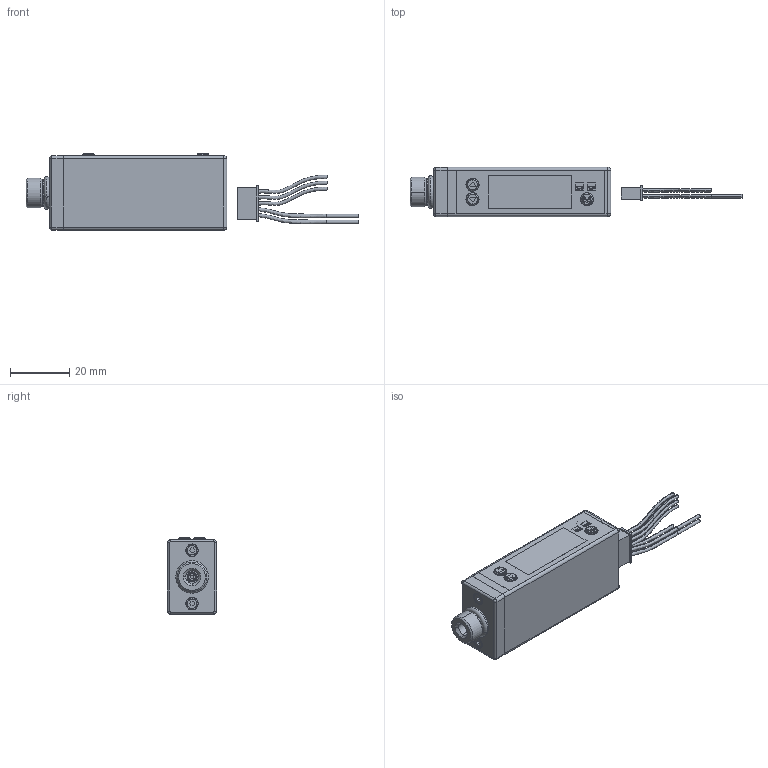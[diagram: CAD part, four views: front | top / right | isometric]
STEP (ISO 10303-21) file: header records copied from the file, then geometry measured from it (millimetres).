
FILE_DESCRIPTION (( 'STEP AP214' ), '1' );
FILE_NAME ('2021115-KP30²Õ¦X.STEP', '2024-09-02T06:53:12', ( '' ), ( '' ), 'SwSTEP 2.0', 'SolidWorks 2022', '' );
FILE_SCHEMA (( 'AUTOMOTIVE_DESIGN' ));
Length unit declared in the file: millimetre
Products named in the file (30): 20211108-Oring; 30103X20B1.step; CONN.2; 30100XX03T.step; 30103X24B1.step; 20211108-D-P-0281B; 20211108-KP30-PC-0276D; 30103XX01T.step; P-0292A; 30103XX02T.step; P-0297C; 20211108改-PC-0277C; CONN.F; 30102X201P.step; EL-0112; 30102X24B1.step; 30103X201P.step; SWITCH; 20211115-D-P-0280D; 20111115-D-P-0279B; 2021115-KP30組合; 20211108-KP30-PC-0275C; p-0283; SCR-0099; 30102X20B1.step; P-0285A; 20211108-Sensor改; i-0246-02c-a2.stp; 20211108-KP30電路板_KP30-改; 20211123軟排接頭
Assembly tree (71 placements, depth 4):
  2021115-KP30組合
    20211108-KP30電路板_KP30-改
      20211108-KP30-PC-0275C
      20211108-KP30-PC-0276D
      20211108-Sensor改
      20211108改-PC-0277C
      30103X24B1.step
      30102X24B1.step
      30103X20B1.step
        30103X201P.step
        30103XX01T.step  x10
        30103XX02T.step  x10
      30102X20B1.step
        30102X201P.step
        30100XX03T.step  x20
      EL-0112
      SWITCH  x3
    20211115-D-P-0280D
    20211108-D-P-0281B
    20111115-D-P-0279B
    20211123軟排接頭
    CONN.F
    p-0283
    i-0246-02c-a2.stp
    P-0285A
    P-0292A
    CONN.2
    P-0297C  x3
    SCR-0099  x2
    20211108-Oring
Bounding box: 111.64 x 16.55 x 25.62 mm (x, y, z)
Volume: 13105.2 mm3; surface area: 23858.8 mm2
Topology: 71 solids, 71 shells, 4843 faces, 13568 edges, 8948 vertices
Faces by surface type: plane 3995, cylinder 723, cone 66, torus 32, bspline 25, sphere 2
Entity records: 103708 total; most frequent: CARTESIAN_POINT 19487, ORIENTED_EDGE 17558, DIRECTION 15957, EDGE_CURVE 8779, LINE 7877, VECTOR 7877, VERTEX_POINT 5760, AXIS2_PLACEMENT_3D 4040
